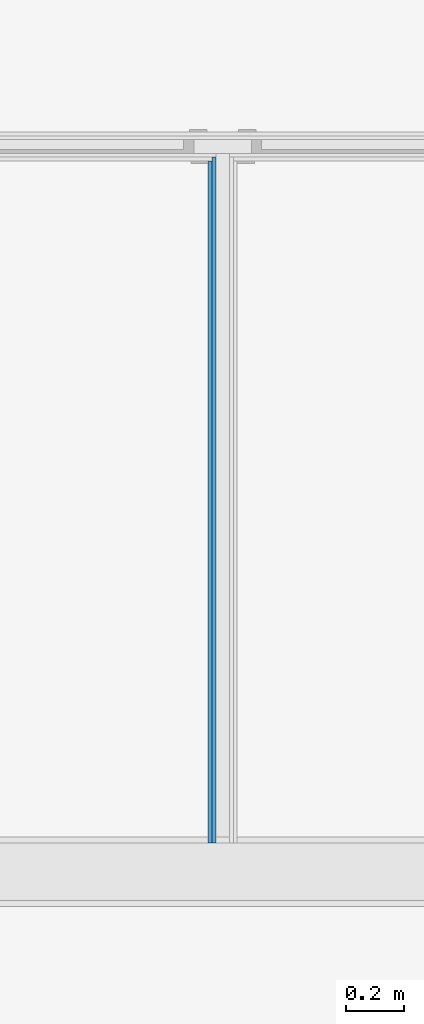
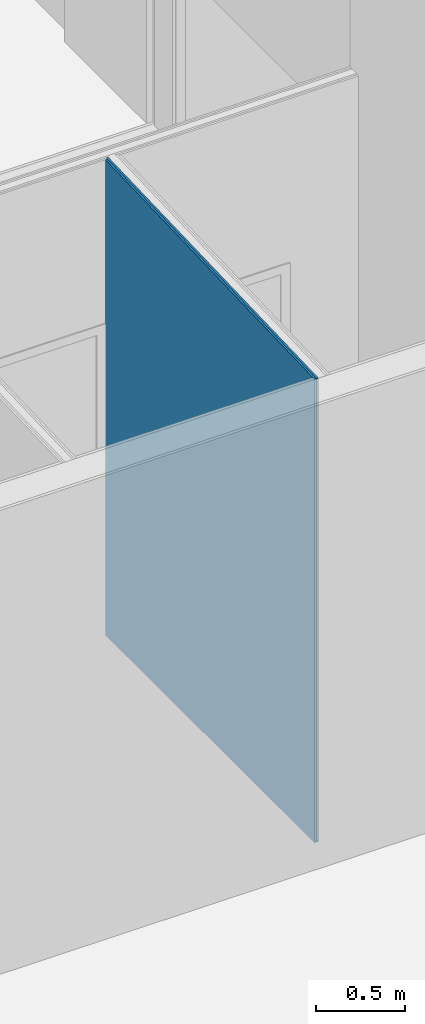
# One storey, part 22 of 34: 2 building element parts, 1 element without a shape of its own.
"""IFC2X3 building model written with IfcOpenShell, lengths in metres."""

from ifc_helpers import new_model, entity, si_unit, converted_unit, derived_unit, money_unit, direction, frame, origin_with_axes, place, context, subcontext, project, spatial, polyline, outline, extrude, boolean, faceted_brep, material, type_object, element, aggregate, save


model = new_model("IFC2X3")

# Units and contexts
model_context = context("Model", 3, precision=1e-05, world=origin_with_axes(), true_north=direction((0.0, 1.0)))
body_context = subcontext(model_context, "Body", "Model", "MODEL_VIEW")
ifc_project = project(units=[si_unit("LENGTHUNIT", "METRE"), si_unit("AREAUNIT", "SQUARE_METRE"), si_unit("VOLUMEUNIT", "CUBIC_METRE"), converted_unit("PLANEANGLEUNIT", "DEGREE", entity("IfcPlaneAngleMeasure", 0.0174532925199), si_unit("PLANEANGLEUNIT", "RADIAN"), dimensions=[0, 0, 0, 0, 0, 0, 0]), money_unit("CHF"), converted_unit("TIMEUNIT", "Year", entity("IfcTimeMeasure", 31556926.0), si_unit("TIMEUNIT", "SECOND"), dimensions=[0, 0, 1, 0, 0, 0, 0]), si_unit("MASSUNIT", "GRAM", prefix="KILO"), si_unit("THERMODYNAMICTEMPERATUREUNIT", "DEGREE_CELSIUS"), si_unit("LUMINOUSINTENSITYUNIT", "LUMEN"), si_unit("ENERGYUNIT", "JOULE", prefix="MEGA"), derived_unit("THERMALCONDUCTANCEUNIT", [(si_unit("POWERUNIT", "WATT"), 1), (si_unit("LENGTHUNIT", "METRE"), -1), (si_unit("THERMODYNAMICTEMPERATUREUNIT", "KELVIN"), -1)]), derived_unit("SPECIFICHEATCAPACITYUNIT", [(si_unit("ENERGYUNIT", "JOULE"), 1), (si_unit("MASSUNIT", "GRAM", prefix="KILO"), -1), (si_unit("THERMODYNAMICTEMPERATUREUNIT", "KELVIN"), -1)]), derived_unit("MASSDENSITYUNIT", [(si_unit("MASSUNIT", "GRAM", prefix="KILO"), 1), (si_unit("VOLUMEUNIT", "CUBIC_METRE"), -1)])], contexts=[model_context])

# Site, building, storey
site_placement = place(None, origin_with_axes())
site = spatial("IfcSite", under=ifc_project, at=site_placement, Name="Site", CompositionType="ELEMENT")
building_placement = place(site_placement, origin_with_axes())
building = spatial("IfcBuilding", under=site, at=building_placement, Name="Bâtiment", CompositionType="ELEMENT")
storey_placement = place(building_placement, origin_with_axes())
storey = spatial("IfcBuildingStorey", under=building, at=storey_placement, Name="Rez-de-chaussée", CompositionType="ELEMENT", Elevation=0.0)

# Wall, building element parts
wall_type = type_object("IfcWallType", Name="Cloison 100/48 100", PredefinedType="NOTDEFINED")
wall_placement = place(storey_placement, frame((22.5794697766, 10.9801256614, 0.0), z_axis=(0.0, 0.0, 1.0), x_axis=(0.0, -1.0, 0.0)))
wall = element("IfcWall", 1, at=wall_placement, inside=storey, type_object=wall_type, Name="MUR_EXT-009")
ifc_material = material(Name="Finition int - Plaque de plâtre")
building_element_part_1_placement = place(wall_placement, origin_with_axes())
building_element_part_1 = element("IfcBuildingElementPart", 2, at=building_element_part_1_placement, material=ifc_material, Name="Finition int - Plaque de plâtre", context=body_context, shape_type="CSG", body=[
    boolean("DIFFERENCE", boolean("DIFFERENCE", boolean("DIFFERENCE", boolean("DIFFERENCE", boolean("DIFFERENCE", extrude(outline(polyline([(0.0, 0.013), (2.68, 0.013), (2.68, 0.026), (0.0, 0.026), (0.0, 0.013)])), origin_with_axes(), (0.0, 0.0, 1.0), 4.0), faceted_brep([(2.46, 0.1, 0.0), (2.46, 0.1, 3.19170439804), (0.1, 0.1, 3.27430439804), (0.1, 0.1, 0.0), (0.0, 0.1, 0.0), (0.0, 0.1, 4.0), (2.68, 0.1, 4.0), (2.68, 0.1, 0.0), (2.46, 0.087, 0.0), (2.46, 0.087, 3.19170439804), (0.1, 0.087, 3.27430439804), (0.1, 0.087, 0.0), (0.0, 0.087, 0.0), (0.0, 0.087, 4.0), (2.68, 0.087, 4.0), (2.68, 0.087, 0.0)], [[[0, 1, 2, 3, 4, 5, 6, 7]], [[1, 0, 8, 9]], [[2, 1, 9, 10]], [[3, 2, 10, 11]], [[3, 11, 12, 4]], [[5, 4, 12, 13]], [[5, 13, 14, 6]], [[14, 15, 7, 6]], [[8, 0, 7, 15]], [[9, 8, 15, 14, 13, 12, 11, 10]]])), faceted_brep([(2.46, 0.087, 3.19170439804), (0.1, 0.087, 3.27430439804), (0.087, 0.087, 3.27475939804), (0.087, 0.087, 0.0), (0.0, 0.087, 0.0), (0.0, 0.087, 4.0), (2.68, 0.087, 4.0), (2.68, 0.087, 0.0), (2.46, 0.087, 0.0), (2.46, 0.074, 3.19170439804), (0.087, 0.074, 3.27475939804), (0.087, 0.074, 0.0), (0.0, 0.074, 0.0), (0.0, 0.074, 4.0), (2.68, 0.074, 4.0), (2.68, 0.074, 0.0), (2.46, 0.074, 0.0)], [[[0, 1, 2, 3, 4, 5, 6, 7, 8]], [[2, 1, 0, 9, 10]], [[3, 2, 10, 11]], [[3, 11, 12, 4]], [[5, 4, 12, 13]], [[5, 13, 14, 6]], [[14, 15, 7, 6]], [[16, 8, 7, 15]], [[0, 8, 16, 9]], [[9, 16, 15, 14, 13, 12, 11, 10]]])), faceted_brep([(2.46, 0.074, 3.19170439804), (0.087, 0.074, 3.27475939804), (0.074, 0.074, 3.27521439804), (0.074, 0.074, 0.0), (0.0, 0.074, 0.0), (0.0, 0.074, 4.0), (2.68, 0.074, 4.0), (2.68, 0.074, 0.0), (2.46, 0.074, 0.0), (2.46, 0.026, 3.19170439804), (0.087, 0.026, 3.27475939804), (0.074, 0.026, 3.27521439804), (0.074, 0.026, 0.0), (0.0, 0.026, 0.0), (0.0, 0.026, 4.0), (2.68, 0.026, 4.0), (2.68, 0.026, 0.0), (2.46, 0.026, 0.0)], [[[0, 1, 2, 3, 4, 5, 6, 7, 8]], [[2, 1, 0, 9, 10, 11]], [[3, 2, 11, 12]], [[3, 12, 13, 4]], [[5, 4, 13, 14]], [[5, 14, 15, 6]], [[15, 16, 7, 6]], [[17, 8, 7, 16]], [[8, 17, 9, 0]], [[9, 17, 16, 15, 14, 13, 12, 11, 10]]])), faceted_brep([(2.46, 0.026, 0.0), (2.46, 0.026, 3.19170439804), (0.087, 0.026, 3.27475939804), (0.087, 0.026, 0.0), (0.0, 0.026, 0.0), (0.0, 0.026, 4.0), (2.68, 0.026, 4.0), (2.68, 0.026, 0.0), (2.46, 0.013, 0.0), (2.46, 0.013, 3.19170439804), (0.1, 0.013, 3.27430439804), (0.087, 0.013, 3.27475939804), (0.087, 0.013, 0.0), (0.0, 0.013, 0.0), (0.0, 0.013, 4.0), (2.68, 0.013, 4.0), (2.68, 0.013, 0.0)], [[[0, 1, 2, 3, 4, 5, 6, 7]], [[0, 8, 9, 1]], [[2, 1, 9, 10, 11]], [[3, 2, 11, 12]], [[3, 12, 13, 4]], [[5, 4, 13, 14]], [[5, 14, 15, 6]], [[15, 16, 7, 6]], [[8, 0, 7, 16]], [[9, 8, 16, 15, 14, 13, 12, 11, 10]]])), faceted_brep([(2.46, 0.013, 0.0), (2.46, 0.013, 3.19170439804), (0.1, 0.013, 3.27430439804), (0.1, 0.013, 0.0), (0.0, 0.013, 0.0), (0.0, 0.013, 4.0), (2.68, 0.013, 4.0), (2.68, 0.013, 0.0), (2.46, 0.0, 0.0), (2.46, 0.0, 3.19170439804), (0.1, 0.0, 3.27430439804), (0.1, 0.0, 0.0), (0.0, 0.0, 0.0), (0.0, 0.0, 4.0), (2.68, 0.0, 4.0), (2.68, 0.0, 0.0)], [[[0, 1, 2, 3, 4, 5, 6, 7]], [[1, 0, 8, 9]], [[2, 1, 9, 10]], [[3, 2, 10, 11]], [[3, 11, 12, 4]], [[5, 4, 12, 13]], [[5, 13, 14, 6]], [[14, 15, 7, 6]], [[8, 0, 7, 15]], [[9, 8, 15, 14, 13, 12, 11, 10]]])),
])
building_element_part_2_placement = place(wall_placement, origin_with_axes())
building_element_part_2 = element("IfcBuildingElementPart", 3, at=building_element_part_2_placement, material=ifc_material, Name="Finition int - Plaque de plâtre", context=body_context, shape_type="CSG", body=[
    boolean("DIFFERENCE", boolean("DIFFERENCE", boolean("DIFFERENCE", boolean("DIFFERENCE", boolean("DIFFERENCE", extrude(outline(polyline([(0.0, 0.0), (2.68, 0.0), (2.68, 0.013), (0.0, 0.013), (0.0, 0.0)])), origin_with_axes(), (0.0, 0.0, 1.0), 4.0), faceted_brep([(2.46, 0.1, 0.0), (2.46, 0.1, 3.19170439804), (0.1, 0.1, 3.27430439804), (0.1, 0.1, 0.0), (0.0, 0.1, 0.0), (0.0, 0.1, 4.0), (2.68, 0.1, 4.0), (2.68, 0.1, 0.0), (2.46, 0.087, 0.0), (2.46, 0.087, 3.19170439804), (0.1, 0.087, 3.27430439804), (0.1, 0.087, 0.0), (0.0, 0.087, 0.0), (0.0, 0.087, 4.0), (2.68, 0.087, 4.0), (2.68, 0.087, 0.0)], [[[0, 1, 2, 3, 4, 5, 6, 7]], [[1, 0, 8, 9]], [[2, 1, 9, 10]], [[3, 2, 10, 11]], [[3, 11, 12, 4]], [[5, 4, 12, 13]], [[5, 13, 14, 6]], [[14, 15, 7, 6]], [[8, 0, 7, 15]], [[9, 8, 15, 14, 13, 12, 11, 10]]])), faceted_brep([(2.46, 0.087, 3.19170439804), (0.1, 0.087, 3.27430439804), (0.087, 0.087, 3.27475939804), (0.087, 0.087, 0.0), (0.0, 0.087, 0.0), (0.0, 0.087, 4.0), (2.68, 0.087, 4.0), (2.68, 0.087, 0.0), (2.46, 0.087, 0.0), (2.46, 0.074, 3.19170439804), (0.087, 0.074, 3.27475939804), (0.087, 0.074, 0.0), (0.0, 0.074, 0.0), (0.0, 0.074, 4.0), (2.68, 0.074, 4.0), (2.68, 0.074, 0.0), (2.46, 0.074, 0.0)], [[[0, 1, 2, 3, 4, 5, 6, 7, 8]], [[2, 1, 0, 9, 10]], [[3, 2, 10, 11]], [[3, 11, 12, 4]], [[5, 4, 12, 13]], [[5, 13, 14, 6]], [[14, 15, 7, 6]], [[16, 8, 7, 15]], [[0, 8, 16, 9]], [[9, 16, 15, 14, 13, 12, 11, 10]]])), faceted_brep([(2.46, 0.074, 3.19170439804), (0.087, 0.074, 3.27475939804), (0.074, 0.074, 3.27521439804), (0.074, 0.074, 0.0), (0.0, 0.074, 0.0), (0.0, 0.074, 4.0), (2.68, 0.074, 4.0), (2.68, 0.074, 0.0), (2.46, 0.074, 0.0), (2.46, 0.026, 3.19170439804), (0.087, 0.026, 3.27475939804), (0.074, 0.026, 3.27521439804), (0.074, 0.026, 0.0), (0.0, 0.026, 0.0), (0.0, 0.026, 4.0), (2.68, 0.026, 4.0), (2.68, 0.026, 0.0), (2.46, 0.026, 0.0)], [[[0, 1, 2, 3, 4, 5, 6, 7, 8]], [[2, 1, 0, 9, 10, 11]], [[3, 2, 11, 12]], [[3, 12, 13, 4]], [[5, 4, 13, 14]], [[5, 14, 15, 6]], [[15, 16, 7, 6]], [[17, 8, 7, 16]], [[8, 17, 9, 0]], [[9, 17, 16, 15, 14, 13, 12, 11, 10]]])), faceted_brep([(2.46, 0.026, 0.0), (2.46, 0.026, 3.19170439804), (0.087, 0.026, 3.27475939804), (0.087, 0.026, 0.0), (0.0, 0.026, 0.0), (0.0, 0.026, 4.0), (2.68, 0.026, 4.0), (2.68, 0.026, 0.0), (2.46, 0.013, 0.0), (2.46, 0.013, 3.19170439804), (0.1, 0.013, 3.27430439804), (0.087, 0.013, 3.27475939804), (0.087, 0.013, 0.0), (0.0, 0.013, 0.0), (0.0, 0.013, 4.0), (2.68, 0.013, 4.0), (2.68, 0.013, 0.0)], [[[0, 1, 2, 3, 4, 5, 6, 7]], [[0, 8, 9, 1]], [[2, 1, 9, 10, 11]], [[3, 2, 11, 12]], [[3, 12, 13, 4]], [[5, 4, 13, 14]], [[5, 14, 15, 6]], [[15, 16, 7, 6]], [[8, 0, 7, 16]], [[9, 8, 16, 15, 14, 13, 12, 11, 10]]])), faceted_brep([(2.46, 0.013, 0.0), (2.46, 0.013, 3.19170439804), (0.1, 0.013, 3.27430439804), (0.1, 0.013, 0.0), (0.0, 0.013, 0.0), (0.0, 0.013, 4.0), (2.68, 0.013, 4.0), (2.68, 0.013, 0.0), (2.46, 0.0, 0.0), (2.46, 0.0, 3.19170439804), (0.1, 0.0, 3.27430439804), (0.1, 0.0, 0.0), (0.0, 0.0, 0.0), (0.0, 0.0, 4.0), (2.68, 0.0, 4.0), (2.68, 0.0, 0.0)], [[[0, 1, 2, 3, 4, 5, 6, 7]], [[1, 0, 8, 9]], [[2, 1, 9, 10]], [[3, 2, 10, 11]], [[3, 11, 12, 4]], [[5, 4, 12, 13]], [[5, 13, 14, 6]], [[14, 15, 7, 6]], [[8, 0, 7, 15]], [[9, 8, 15, 14, 13, 12, 11, 10]]])),
])
aggregate(wall, [building_element_part_1, building_element_part_2])

save(model, "model.ifc")
